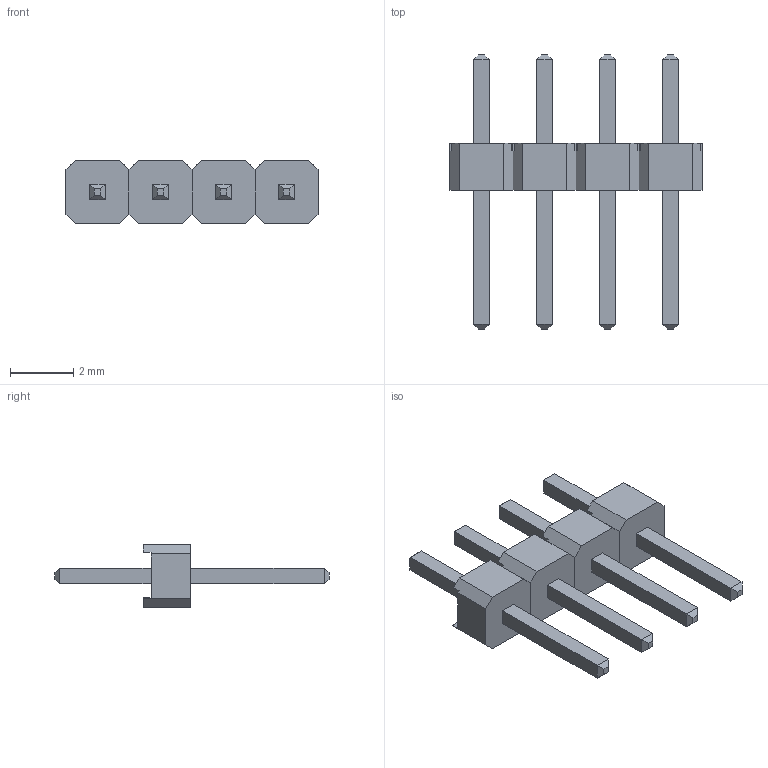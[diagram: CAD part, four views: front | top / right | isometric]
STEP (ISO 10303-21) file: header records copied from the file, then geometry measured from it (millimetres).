
FILE_DESCRIPTION (( 'STEP AP214' ), '1' );
FILE_NAME ('User Library-4-pinasm_asm.STEP', '2020-03-30T12:20:36', ( '' ), ( '' ), 'SwSTEP 2.0', 'SolidWorks 2019', '' );
FILE_SCHEMA (( 'AUTOMOTIVE_DESIGN' ));
Length unit declared in the file: millimetre
Products named in the file (2): User Library-4-pinasm_asm; PIN_SINGLE
Assembly tree (4 placements, depth 2):
  User Library-4-pinasm_asm
    PIN_SINGLE  x4
Bounding box: 8 x 8.7 x 2 mm (x, y, z)
Volume: 27.3 mm3; surface area: 133.2 mm2
Topology: 4 solids, 4 shells, 128 faces, 304 edges, 192 vertices
Faces by surface type: plane 128
Entity records: 986 total; most frequent: CARTESIAN_POINT 163, DIRECTION 154, ORIENTED_EDGE 152, EDGE_CURVE 76, LINE 76, VECTOR 76, VERTEX_POINT 48, AXIS2_PLACEMENT_3D 39
